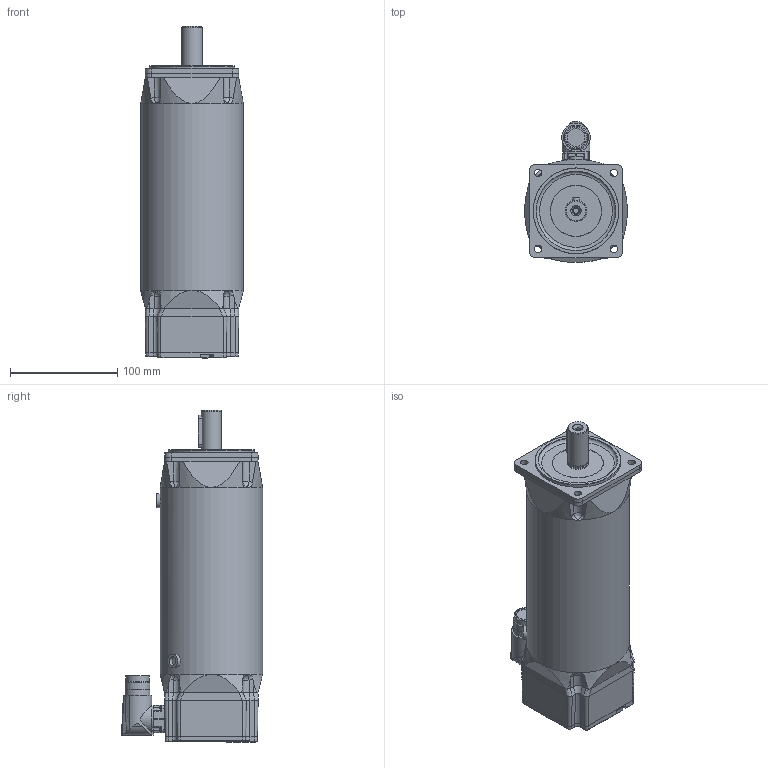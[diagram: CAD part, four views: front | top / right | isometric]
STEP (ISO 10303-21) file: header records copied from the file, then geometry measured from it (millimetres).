
FILE_DESCRIPTION(/* description */ (''),/* implementation_level */ '2;1');
FILE_NAME(/* name */ 'AM834-xx11.stp',/* time_stamp */ '2024-10-31T15:38:29+01:00',/* author */ ('MartinMue'),/* organization */ ('FERTIG Motors'),/* preprocessor_version */ 'ST-DEVELOPER v20',/* originating_system */ 'Autodesk Inventor 2024',/* authorisation */ '');
FILE_SCHEMA (('AUTOMOTIVE_DESIGN { 1 0 10303 214 3 1 1 }'));
Length unit declared in the file: millimetre
Products named in the file (5): 5000000379; 5000000379_1; DIN 6885-A6x6x30; Intercontec-B_ED_A_091_NN_00_00_1116_000.ipt_VM2_Sockel; Intercontec-B_ED_A_091_NN_00_00_1116_000.ipt_VM2_ohne_Sockel
Assembly tree (4 placements, depth 2):
  5000000379
    5000000379_1
    DIN 6885-A6x6x30
    Intercontec-B_ED_A_091_NN_00_00_1116_000.ipt_VM2_Sockel
    Intercontec-B_ED_A_091_NN_00_00_1116_000.ipt_VM2_ohne_Sockel
Bounding box: 95.5 x 131.51 x 309.51 mm (x, y, z)
Volume: 1964071.6 mm3; surface area: 112957.5 mm2
Topology: 4 solids, 4 shells, 494 faces, 1273 edges, 812 vertices
Faces by surface type: plane 248, cylinder 105, cone 65, bspline 65, torus 7, sphere 4
Full cylindrical faces by diameter (mm): 4.8 x4, 4.917 x1, 6.4 x1, 8.566 x2, 13 x2, 16.8 x1, 18.4 x1, 19 x1, 19.999 x1, 21.6 x1, 23 x1, 23.1 x1, 80 x1, 95.5 x1
Entity records: 18984 total; most frequent: CARTESIAN_POINT 6297, ORIENTED_EDGE 2530, DIRECTION 2443, EDGE_CURVE 1265, AXIS2_PLACEMENT_3D 875, VERTEX_POINT 814, LINE 693, VECTOR 693
